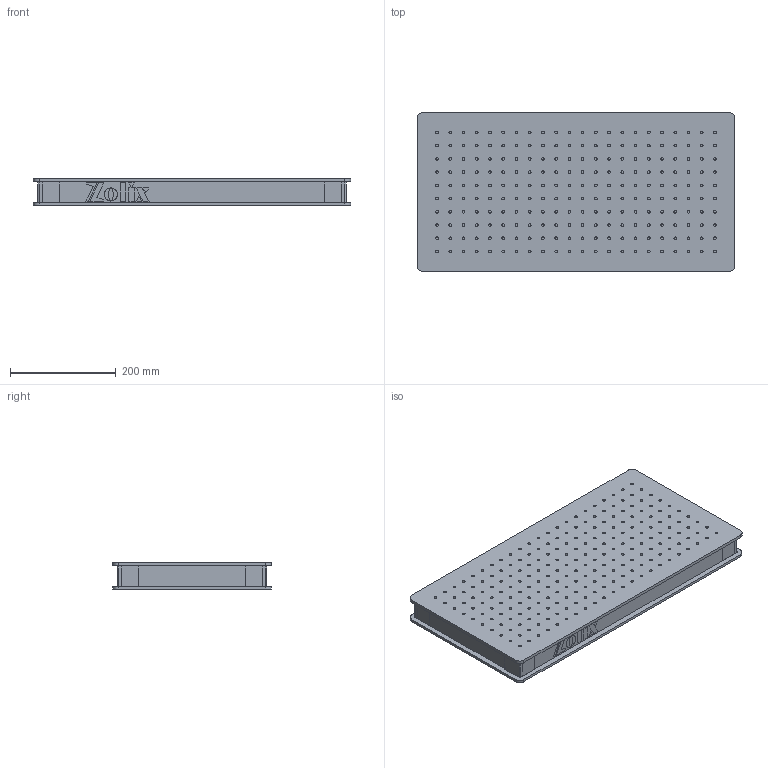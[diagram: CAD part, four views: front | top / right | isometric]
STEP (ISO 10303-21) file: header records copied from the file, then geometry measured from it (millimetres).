
FILE_DESCRIPTION (( 'STEP AP203' ), '1' );
FILE_NAME ('OTBB36-50 怢醱.STEP', '2019-05-09T08:17:47', ( 'User' ), ( 'User' ), 'SwSTEP 2.0', 'SolidWorks 2016', '' );
FILE_SCHEMA (( 'CONFIG_CONTROL_DESIGN' ));
Length unit declared in the file: millimetre
Products named in the file (1): OTBB36-50 怢醱
Bounding box: 600 x 300 x 50 mm (x, y, z)
Surface area: 832727.5 mm2 (no closed solid volume)
Topology: 0 solids, 30 shells, 524 faces, 1786 edges, 1294 vertices
Faces by surface type: cylinder 452, plane 72
Entity records: 20800 total; most frequent: DIRECTION 3740, CARTESIAN_POINT 3605, ORIENTED_EDGE 3192, EDGE_CURVE 1786, AXIS2_PLACEMENT_3D 1429, VERTEX_POINT 1294, EDGE_LOOP 964, CIRCLE 904
